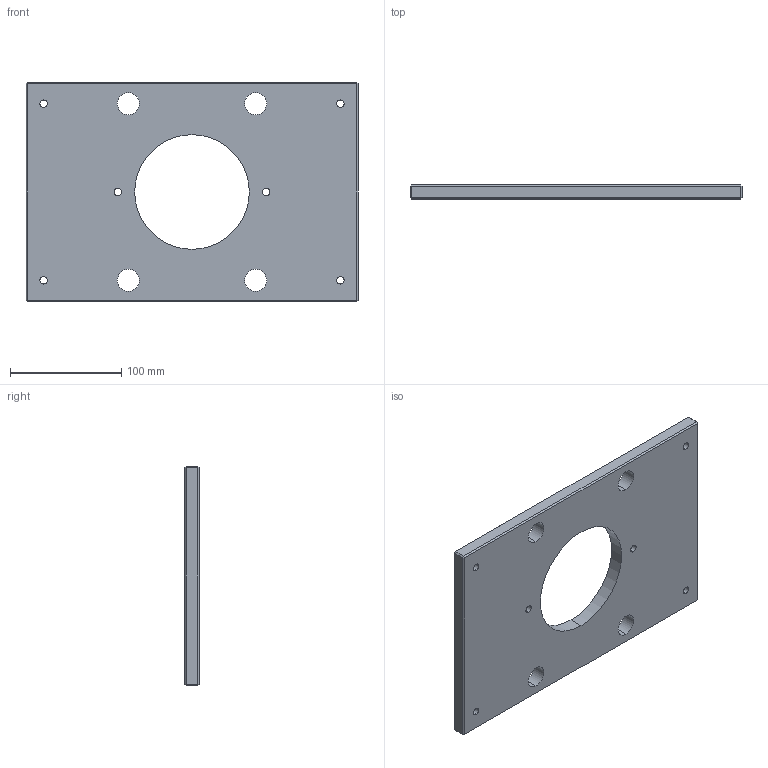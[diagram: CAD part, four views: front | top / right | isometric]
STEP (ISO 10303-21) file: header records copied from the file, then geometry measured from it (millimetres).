
FILE_DESCRIPTION (( 'STEP AP214' ), '1' );
FILE_NAME ('ME-0619-CH-0812.STEP', '2020-02-12T07:45:14', ( '' ), ( '' ), 'SwSTEP 2.0', 'SolidWorks 2018', '' );
FILE_SCHEMA (( 'AUTOMOTIVE_DESIGN' ));
Length unit declared in the file: inch
Products named in the file (1): ME-0619-CH-0812
Bounding box: 298.45 x 12.7 x 196.85 mm (x, y, z)
Volume: 618558.7 mm3; surface area: 117693.4 mm2
Topology: 1 solids, 1 shells, 60 faces, 138 edges, 80 vertices
Faces by surface type: plane 26, cylinder 22, cone 12
Entity records: 1754 total; most frequent: DIRECTION 316, CARTESIAN_POINT 279, ORIENTED_EDGE 276, EDGE_CURVE 138, AXIS2_PLACEMENT_3D 117, EDGE_LOOP 82, VECTOR 82, LINE 82
